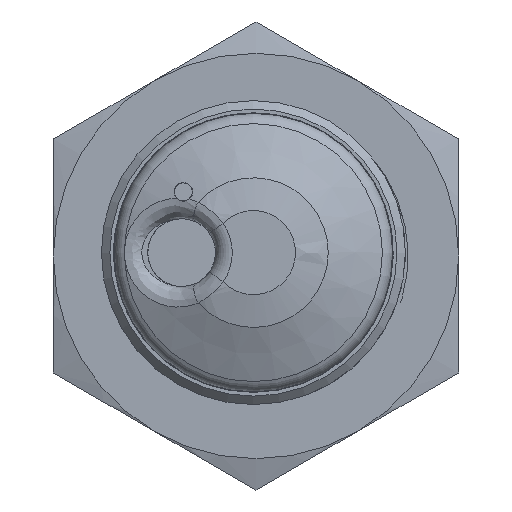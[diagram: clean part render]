
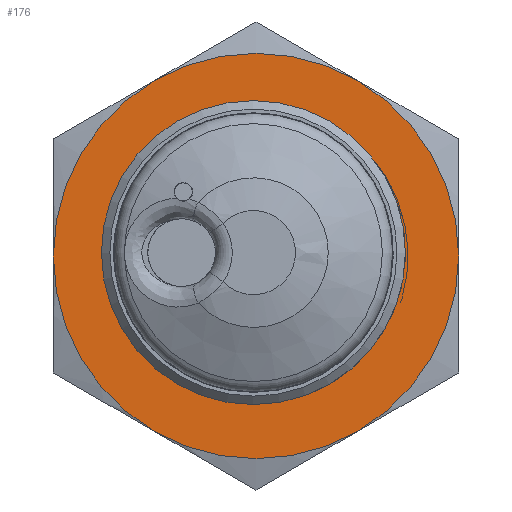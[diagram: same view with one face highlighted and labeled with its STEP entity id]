
A CAD part, left-side view. The second image highlights one B-rep face of the part: STEP entity #176.
In plain terms, the highlighted planar face has unit normal (-1, 0, 0).
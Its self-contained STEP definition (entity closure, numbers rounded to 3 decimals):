
#176 = ADVANCED_FACE( '', ( #416, #417 ), #418, .T. );
#416 = FACE_BOUND( '', #930, .T. );
#417 = FACE_OUTER_BOUND( '', #931, .T. );
#418 = PLANE( '', #932 );
#930 = EDGE_LOOP( '', ( #3105 ) );
#931 = EDGE_LOOP( '', ( #3106, #3107, #3108, #3109, #3110, #3111 ) );
#932 = AXIS2_PLACEMENT_3D( '', #3112, #3113, #3114 );
#3105 = ORIENTED_EDGE( '', *, *, #4639, .F. );
#3106 = ORIENTED_EDGE( '', *, *, #4640, .F. );
#3107 = ORIENTED_EDGE( '', *, *, #4641, .F. );
#3108 = ORIENTED_EDGE( '', *, *, #4642, .F. );
#3109 = ORIENTED_EDGE( '', *, *, #4643, .F. );
#3110 = ORIENTED_EDGE( '', *, *, #4644, .T. );
#3111 = ORIENTED_EDGE( '', *, *, #4645, .T. );
#3112 = CARTESIAN_POINT( '', ( -2., 12.445, 14.349 ) );
#3113 = DIRECTION( '', ( -1., 0., 0. ) );
#3114 = DIRECTION( '', ( 0., 0., 1. ) );
#4639 = EDGE_CURVE( '', #4946, #4946, #4947, .T. );
#4640 = EDGE_CURVE( '', #4948, #4949, #4950, .T. );
#4641 = EDGE_CURVE( '', #4951, #4948, #4952, .T. );
#4642 = EDGE_CURVE( '', #4953, #4951, #4954, .T. );
#4643 = EDGE_CURVE( '', #4955, #4953, #4956, .T. );
#4644 = EDGE_CURVE( '', #4955, #4957, #4958, .F. );
#4645 = EDGE_CURVE( '', #4957, #4949, #4959, .F. );
#4946 = VERTEX_POINT( '', #5446 );
#4947 = CIRCLE( '', #5447, 8.459 );
#4948 = VERTEX_POINT( '', #5448 );
#4949 = VERTEX_POINT( '', #5449 );
#4950 = CIRCLE( '', #5450, 12. );
#4951 = VERTEX_POINT( '', #5451 );
#4952 = CIRCLE( '', #5452, 12. );
#4953 = VERTEX_POINT( '', #5453 );
#4954 = CIRCLE( '', #5454, 12. );
#4955 = VERTEX_POINT( '', #5455 );
#4956 = CIRCLE( '', #5456, 12. );
#4957 = VERTEX_POINT( '', #5457 );
#4958 = CIRCLE( '', #5458, 12. );
#4959 = CIRCLE( '', #5459, 12. );
#5446 = CARTESIAN_POINT( '', ( -2., 0., 8.459 ) );
#5447 = AXIS2_PLACEMENT_3D( '', #6992, #6993, #6994 );
#5448 = CARTESIAN_POINT( '', ( -2., 5.845, -10.592 ) );
#5449 = CARTESIAN_POINT( '', ( -2., 11.845, -0.2 ) );
#5450 = AXIS2_PLACEMENT_3D( '', #6995, #6996, #6997 );
#5451 = CARTESIAN_POINT( '', ( -2., -6.155, -10.592 ) );
#5452 = AXIS2_PLACEMENT_3D( '', #6998, #6999, #7000 );
#5453 = CARTESIAN_POINT( '', ( -2., -12.155, -0.2 ) );
#5454 = AXIS2_PLACEMENT_3D( '', #7001, #7002, #7003 );
#5455 = CARTESIAN_POINT( '', ( -2., -6.155, 10.192 ) );
#5456 = AXIS2_PLACEMENT_3D( '', #7004, #7005, #7006 );
#5457 = CARTESIAN_POINT( '', ( -2., 5.845, 10.192 ) );
#5458 = AXIS2_PLACEMENT_3D( '', #7007, #7008, #7009 );
#5459 = AXIS2_PLACEMENT_3D( '', #7010, #7011, #7012 );
#6992 = CARTESIAN_POINT( '', ( -2., 0., 0. ) );
#6993 = DIRECTION( '', ( -1., 0., 0. ) );
#6994 = DIRECTION( '', ( 0., 0., 1. ) );
#6995 = CARTESIAN_POINT( '', ( -2., -0.155, -0.2 ) );
#6996 = DIRECTION( '', ( 1., 0., 0. ) );
#6997 = DIRECTION( '', ( 0., 0., -1. ) );
#6998 = CARTESIAN_POINT( '', ( -2., -0.155, -0.2 ) );
#6999 = DIRECTION( '', ( 1., 0., 0. ) );
#7000 = DIRECTION( '', ( 0., 0., -1. ) );
#7001 = CARTESIAN_POINT( '', ( -2., -0.155, -0.2 ) );
#7002 = DIRECTION( '', ( 1., 0., 0. ) );
#7003 = DIRECTION( '', ( 0., 0., -1. ) );
#7004 = CARTESIAN_POINT( '', ( -2., -0.155, -0.2 ) );
#7005 = DIRECTION( '', ( 1., 0., 0. ) );
#7006 = DIRECTION( '', ( 0., 0., -1. ) );
#7007 = CARTESIAN_POINT( '', ( -2., -0.155, -0.2 ) );
#7008 = DIRECTION( '', ( 1., 0., 0. ) );
#7009 = DIRECTION( '', ( 0., 0., -1. ) );
#7010 = CARTESIAN_POINT( '', ( -2., -0.155, -0.2 ) );
#7011 = DIRECTION( '', ( 1., 0., 0. ) );
#7012 = DIRECTION( '', ( 0., 0., -1. ) );
